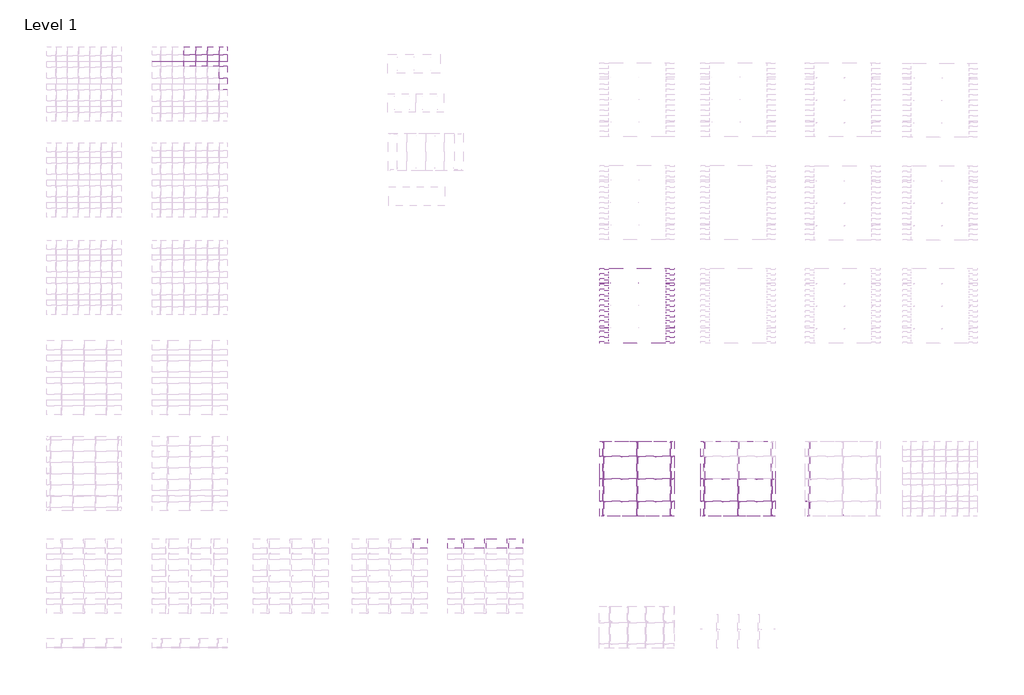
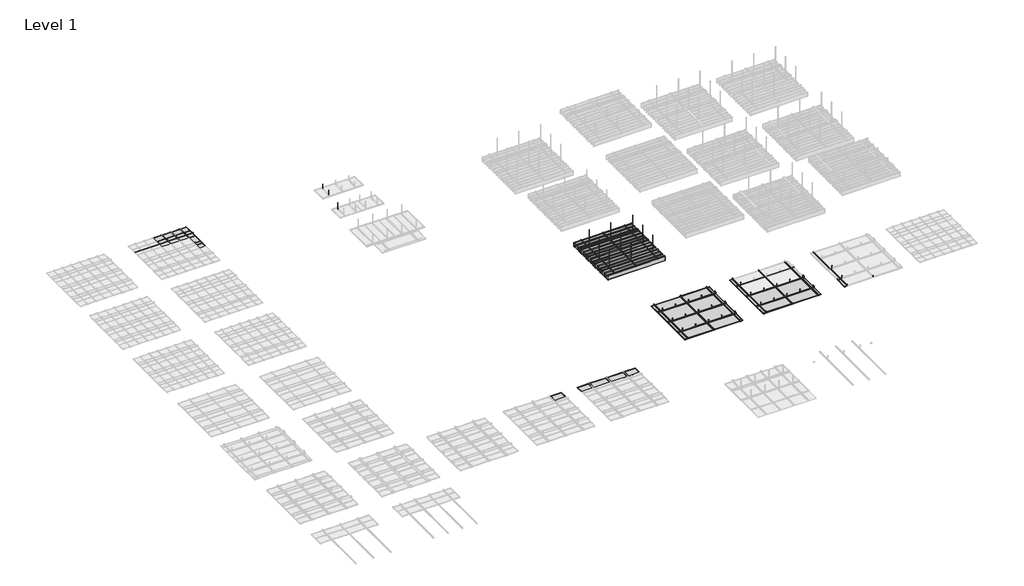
# One storey, part 24 of 32: 137 proxies.
"""IFC4 building model written with IfcOpenShell, lengths in millimetres."""

from ifc_helpers import new_model, si_unit, origin, place, context, project, spatial, transform, mapped, element, save
from components import generic_models_ab528957, generic_models_1702ebeb, generic_models_b2b1e57a, generic_models_3838b954, generic_models_1e71879b, generic_models_84546a59, generic_models_da7def32, generic_models_ee162b96, generic_models_e66d4f3b, generic_models_2999ce62, generic_models_18f5319a, generic_models_fc41ec27, generic_models_9dfc34b4, generic_models_9e18e937, generic_models_28f6a95c, generic_models_9ccf16c1, generic_models_38625c8c, generic_models_2f172364, generic_models_72923a4e, generic_models_39815823, generic_models_aa8f36d8, generic_models_26324e2b, generic_models_eb6e0cd6, generic_models_743fb40c

model = new_model("IFC4")

# Units and contexts
model_context = context("Model", 3, world=origin())
ifc_project = project(units=[si_unit("LENGTHUNIT", "METRE", prefix="MILLI")], contexts=[model_context])

# Site, building, storey
site = spatial("IfcSite", under=ifc_project)
building = spatial("IfcBuilding", under=site)
storey = spatial("IfcBuildingStorey", under=building, Name="Level 1", Elevation=0.0)

# Proxies
placement = place(None, origin())
generic_models_shape = generic_models_ab528957(model_context)
element("IfcBuildingElementProxy", 1, Name="durlum_S7_panel : durlum_S7_panel", ObjectType="durlum_S7_panel : durlum_S7_panel", at=placement, inside=storey, context=model_context, shape_type="MappedRepresentation", body=[
    mapped(generic_models_shape, transform((11272.6837261, 3146.446135, 3750.0), x_axis=(1.0, 0.0, 0.0), y_axis=(0.0, 1.0, 0.0), z_axis=(0.0, 0.0, 1.0))),
])
element("IfcBuildingElementProxy", 2, Name="durlum_S7_panel : durlum_S7_panel", ObjectType="durlum_S7_panel : durlum_S7_panel", at=placement, inside=storey, context=model_context, shape_type="MappedRepresentation", body=[
    mapped(generic_models_shape, transform((13076.6837261, 3146.446135, 3750.0), x_axis=(1.0, 0.0, 0.0), y_axis=(0.0, 1.0, 0.0), z_axis=(0.0, 0.0, 1.0))),
])
element("IfcBuildingElementProxy", 3, Name="durlum_S7_panel : durlum_S7_panel", ObjectType="durlum_S7_panel : durlum_S7_panel", at=placement, inside=storey, context=model_context, shape_type="MappedRepresentation", body=[
    mapped(generic_models_shape, transform((11272.6837261, 4350.446135, 3750.0), x_axis=(1.0, 0.0, 0.0), y_axis=(0.0, 1.0, 0.0), z_axis=(0.0, 0.0, 1.0))),
])
element("IfcBuildingElementProxy", 4, Name="durlum_S7_panel : durlum_S7_panel", ObjectType="durlum_S7_panel : durlum_S7_panel", at=placement, inside=storey, context=model_context, shape_type="MappedRepresentation", body=[
    mapped(generic_models_shape, transform((13076.6837261, 4350.446135, 3750.0), x_axis=(1.0, 0.0, 0.0), y_axis=(0.0, 1.0, 0.0), z_axis=(0.0, 0.0, 1.0))),
])
element("IfcBuildingElementProxy", 5, Name="durlum_S7_panel : durlum_S7_panel", ObjectType="durlum_S7_panel : durlum_S7_panel", at=placement, inside=storey, context=model_context, shape_type="MappedRepresentation", body=[
    mapped(generic_models_shape, transform((16672.6837261, 3146.446135, 3750.0), x_axis=(1.0, 0.0, 0.0), y_axis=(0.0, 1.0, 0.0), z_axis=(0.0, 0.0, 1.0))),
])
element("IfcBuildingElementProxy", 6, Name="durlum_S7_panel : durlum_S7_panel", ObjectType="durlum_S7_panel : durlum_S7_panel", at=placement, inside=storey, context=model_context, shape_type="MappedRepresentation", body=[
    mapped(generic_models_shape, transform((18476.6837261, 3146.446135, 3750.0), x_axis=(1.0, 0.0, 0.0), y_axis=(0.0, 1.0, 0.0), z_axis=(0.0, 0.0, 1.0))),
])
generic_models_2_shape = generic_models_1702ebeb(model_context)
element("IfcBuildingElementProxy", 7, Name="durlum_S7_panel : durlum_S7_panel_wall_width_cut", ObjectType="durlum_S7_panel : durlum_S7_panel_wall_width_cut", at=placement, inside=storey, context=model_context, shape_type="MappedRepresentation", body=[
    mapped(generic_models_2_shape, transform((13076.6837261, 2146.446135, 3750.0), x_axis=(1.0, 0.0, 0.0), y_axis=(0.0, 1.0, 0.0), z_axis=(0.0, 0.0, 1.0))),
])
element("IfcBuildingElementProxy", 8, Name="durlum_S7_panel : durlum_S7_panel_wall_width_cut", ObjectType="durlum_S7_panel : durlum_S7_panel_wall_width_cut", at=placement, inside=storey, context=model_context, shape_type="MappedRepresentation", body=[
    mapped(generic_models_2_shape, transform((13076.6837261, 5350.446135, 3750.0), x_axis=(1.0, 0.0, 0.0), y_axis=(0.0, 1.0, 0.0), z_axis=(0.0, 0.0, 1.0))),
])
element("IfcBuildingElementProxy", 9, Name="durlum_S7_panel : durlum_S7_panel_wall_width_cut", ObjectType="durlum_S7_panel : durlum_S7_panel_wall_width_cut", at=placement, inside=storey, context=model_context, shape_type="MappedRepresentation", body=[
    mapped(generic_models_2_shape, transform((11272.6837261, 2146.446135, 3750.0), x_axis=(1.0, 0.0, 0.0), y_axis=(0.0, 1.0, 0.0), z_axis=(0.0, 0.0, 1.0))),
])
element("IfcBuildingElementProxy", 10, Name="durlum_S7_panel : durlum_S7_panel_wall_width_cut", ObjectType="durlum_S7_panel : durlum_S7_panel_wall_width_cut", at=placement, inside=storey, context=model_context, shape_type="MappedRepresentation", body=[
    mapped(generic_models_2_shape, transform((11272.6837261, 5350.446135, 3750.0), x_axis=(1.0, 0.0, 0.0), y_axis=(0.0, 1.0, 0.0), z_axis=(0.0, 0.0, 1.0))),
])
element("IfcBuildingElementProxy", 11, Name="durlum_S7_panel : durlum_S7_panel_wall_width_cut", ObjectType="durlum_S7_panel : durlum_S7_panel_wall_width_cut", at=placement, inside=storey, context=model_context, shape_type="MappedRepresentation", body=[
    mapped(generic_models_2_shape, transform((18476.6837261, 2146.446135, 3750.0), x_axis=(1.0, 0.0, 0.0), y_axis=(0.0, 1.0, 0.0), z_axis=(0.0, 0.0, 1.0))),
])
element("IfcBuildingElementProxy", 12, Name="durlum_S7_panel : durlum_S7_panel_wall_width_cut", ObjectType="durlum_S7_panel : durlum_S7_panel_wall_width_cut", at=placement, inside=storey, context=model_context, shape_type="MappedRepresentation", body=[
    mapped(generic_models_2_shape, transform((16672.6837261, 2146.446135, 3750.0), x_axis=(1.0, 0.0, 0.0), y_axis=(0.0, 1.0, 0.0), z_axis=(0.0, 0.0, 1.0))),
])
generic_models_3_shape = generic_models_b2b1e57a(model_context)
element("IfcBuildingElementProxy", 13, Name="durlum_S7_panel : durlum_S7_panel_wall_length_cut", ObjectType="durlum_S7_panel : durlum_S7_panel_wall_length_cut", at=placement, inside=storey, context=model_context, shape_type="MappedRepresentation", body=[
    mapped(generic_models_3_shape, transform((10272.6837261, 3146.446135, 3750.0), x_axis=(1.0, 0.0, 0.0), y_axis=(0.0, 1.0, 0.0), z_axis=(0.0, 0.0, 1.0))),
])
element("IfcBuildingElementProxy", 14, Name="durlum_S7_panel : durlum_S7_panel_wall_length_cut", ObjectType="durlum_S7_panel : durlum_S7_panel_wall_length_cut", at=placement, inside=storey, context=model_context, shape_type="MappedRepresentation", body=[
    mapped(generic_models_3_shape, transform((14076.6837261, 3146.446135, 3750.0), x_axis=(1.0, 0.0, 0.0), y_axis=(0.0, 1.0, 0.0), z_axis=(0.0, 0.0, 1.0))),
])
element("IfcBuildingElementProxy", 15, Name="durlum_S7_panel : durlum_S7_panel_wall_length_cut", ObjectType="durlum_S7_panel : durlum_S7_panel_wall_length_cut", at=placement, inside=storey, context=model_context, shape_type="MappedRepresentation", body=[
    mapped(generic_models_3_shape, transform((14076.6837261, 4350.446135, 3750.0), x_axis=(1.0, 0.0, 0.0), y_axis=(0.0, 1.0, 0.0), z_axis=(0.0, 0.0, 1.0))),
])
element("IfcBuildingElementProxy", 16, Name="durlum_S7_panel : durlum_S7_panel_wall_length_cut", ObjectType="durlum_S7_panel : durlum_S7_panel_wall_length_cut", at=placement, inside=storey, context=model_context, shape_type="MappedRepresentation", body=[
    mapped(generic_models_3_shape, transform((10272.6837261, 4350.446135, 3750.0), x_axis=(1.0, 0.0, 0.0), y_axis=(0.0, 1.0, 0.0), z_axis=(0.0, 0.0, 1.0))),
])
element("IfcBuildingElementProxy", 17, Name="durlum_S7_panel : durlum_S7_panel_wall_length_cut", ObjectType="durlum_S7_panel : durlum_S7_panel_wall_length_cut", at=placement, inside=storey, context=model_context, shape_type="MappedRepresentation", body=[
    mapped(generic_models_3_shape, transform((15672.6837261, 3146.446135, 3750.0), x_axis=(1.0, 0.0, 0.0), y_axis=(0.0, 1.0, 0.0), z_axis=(0.0, 0.0, 1.0))),
])
element("IfcBuildingElementProxy", 18, Name="durlum_S7_panel : durlum_S7_panel_wall_length_cut", ObjectType="durlum_S7_panel : durlum_S7_panel_wall_length_cut", at=placement, inside=storey, context=model_context, shape_type="MappedRepresentation", body=[
    mapped(generic_models_3_shape, transform((19476.6837261, 3146.446135, 3750.0), x_axis=(1.0, 0.0, 0.0), y_axis=(0.0, 1.0, 0.0), z_axis=(0.0, 0.0, 1.0))),
])
element("IfcBuildingElementProxy", 19, Name="durlum_S7_panel : durlum_S7_panel_wall_length_cut", ObjectType="durlum_S7_panel : durlum_S7_panel_wall_length_cut", at=placement, inside=storey, context=model_context, shape_type="MappedRepresentation", body=[
    mapped(generic_models_3_shape, transform((15672.6837261, 4350.446135, 3750.0), x_axis=(1.0, 0.0, 0.0), y_axis=(0.0, 1.0, 0.0), z_axis=(0.0, 0.0, 1.0))),
])
generic_models_4_shape = generic_models_3838b954(model_context)
element("IfcBuildingElementProxy", 20, Name="durlum_S7_panel : durlum_S7_panel_wall_corner", ObjectType="durlum_S7_panel : durlum_S7_panel_wall_corner", at=placement, inside=storey, context=model_context, shape_type="MappedRepresentation", body=[
    mapped(generic_models_4_shape, transform((10272.6837261, 2146.446135, 3750.0), x_axis=(1.0, 0.0, 0.0), y_axis=(0.0, 1.0, 0.0), z_axis=(0.0, 0.0, 1.0))),
])
element("IfcBuildingElementProxy", 21, Name="durlum_S7_panel : durlum_S7_panel_wall_corner", ObjectType="durlum_S7_panel : durlum_S7_panel_wall_corner", at=placement, inside=storey, context=model_context, shape_type="MappedRepresentation", body=[
    mapped(generic_models_4_shape, transform((14076.6837261, 2146.446135, 3750.0), x_axis=(1.0, 0.0, 0.0), y_axis=(0.0, 1.0, 0.0), z_axis=(0.0, 0.0, 1.0))),
])
element("IfcBuildingElementProxy", 22, Name="durlum_S7_panel : durlum_S7_panel_wall_corner", ObjectType="durlum_S7_panel : durlum_S7_panel_wall_corner", at=placement, inside=storey, context=model_context, shape_type="MappedRepresentation", body=[
    mapped(generic_models_4_shape, transform((14076.6837261, 5350.446135, 3750.0), x_axis=(1.0, 0.0, 0.0), y_axis=(0.0, 1.0, 0.0), z_axis=(0.0, 0.0, 1.0))),
])
element("IfcBuildingElementProxy", 23, Name="durlum_S7_panel : durlum_S7_panel_wall_corner", ObjectType="durlum_S7_panel : durlum_S7_panel_wall_corner", at=placement, inside=storey, context=model_context, shape_type="MappedRepresentation", body=[
    mapped(generic_models_4_shape, transform((10272.6837261, 5350.446135, 3750.0), x_axis=(1.0, 0.0, 0.0), y_axis=(0.0, 1.0, 0.0), z_axis=(0.0, 0.0, 1.0))),
])
element("IfcBuildingElementProxy", 24, Name="durlum_S7_panel : durlum_S7_panel_wall_corner", ObjectType="durlum_S7_panel : durlum_S7_panel_wall_corner", at=placement, inside=storey, context=model_context, shape_type="MappedRepresentation", body=[
    mapped(generic_models_4_shape, transform((15672.6837261, 2146.446135, 3750.0), x_axis=(1.0, 0.0, 0.0), y_axis=(0.0, 1.0, 0.0), z_axis=(0.0, 0.0, 1.0))),
])
element("IfcBuildingElementProxy", 25, Name="durlum_S7_panel : durlum_S7_panel_wall_corner", ObjectType="durlum_S7_panel : durlum_S7_panel_wall_corner", at=placement, inside=storey, context=model_context, shape_type="MappedRepresentation", body=[
    mapped(generic_models_4_shape, transform((19476.6837261, 2146.446135, 3750.0), x_axis=(1.0, 0.0, 0.0), y_axis=(0.0, 1.0, 0.0), z_axis=(0.0, 0.0, 1.0))),
])
element("IfcBuildingElementProxy", 26, Name="durlum_S7_panel : durlum_S7_panel_wall_corner", ObjectType="durlum_S7_panel : durlum_S7_panel_wall_corner", at=placement, inside=storey, context=model_context, shape_type="MappedRepresentation", body=[
    mapped(generic_models_4_shape, transform((15672.6837261, 5350.446135, 3750.0), x_axis=(1.0, 0.0, 0.0), y_axis=(0.0, 1.0, 0.0), z_axis=(0.0, 0.0, 1.0))),
])
element("IfcBuildingElementProxy", 27, Name="durlum_S7_panel : durlum_S7_panel_wall_corner", ObjectType="durlum_S7_panel : durlum_S7_panel_wall_corner", at=placement, inside=storey, context=model_context, shape_type="MappedRepresentation", body=[
    mapped(generic_models_4_shape, transform((21270.1507827, 2146.446135, 3750.0), x_axis=(1.0, 0.0, 0.0), y_axis=(0.0, 1.0, 0.0), z_axis=(0.0, 0.0, 1.0))),
])
generic_models_5_shape = generic_models_1e71879b(model_context)
element("IfcBuildingElementProxy", 28, Name="durlum_FLUID-C : durlum_FLUID-C_1204x1204", ObjectType="durlum_FLUID-C : durlum_FLUID-C_1204x1204", at=placement, inside=storey, context=model_context, shape_type="MappedRepresentation", body=[
    mapped(generic_models_5_shape, transform((12174.6837261, 3748.446135, 0.0), x_axis=(1.0, 0.0, 0.0), y_axis=(0.0, 1.0, 0.0), z_axis=(0.0, 0.0, 1.0))),
])
element("IfcBuildingElementProxy", 29, Name="durlum_FLUID-C : durlum_FLUID-C_904x904", ObjectType="durlum_FLUID-C : durlum_FLUID-C_904x904", at=placement, inside=storey, context=model_context, shape_type="MappedRepresentation", body=[
    mapped(generic_models_5_shape, transform((17574.6837261, 3748.446135, 0.0), x_axis=(1.0, 0.0, 0.0), y_axis=(0.0, 1.0, 0.0), z_axis=(0.0, 0.0, 1.0))),
])
generic_models_6_shape = generic_models_84546a59(model_context)
element("IfcBuildingElementProxy", 30, Name="durlum_threaded_rod_M6 : durlum_threaded_rod_M6", ObjectType="durlum_threaded_rod_M6 : durlum_threaded_rod_M6", at=placement, inside=storey, context=model_context, shape_type="MappedRepresentation", body=[
    mapped(generic_models_6_shape, transform((-10267.5747393, 26058.7392516, 3835.0), x_axis=(1.0, 0.0, 0.0), y_axis=(0.0, 1.0, 0.0), z_axis=(0.0, 0.0, 1.0))),
])
element("IfcBuildingElementProxy", 31, Name="durlum_threaded_rod_M6 : durlum_threaded_rod_M6", ObjectType="durlum_threaded_rod_M6 : durlum_threaded_rod_M6", at=placement, inside=storey, context=model_context, shape_type="MappedRepresentation", body=[
    mapped(generic_models_6_shape, transform((-10892.5747393, 26058.7392516, 3835.0), x_axis=(1.0, 0.0, 0.0), y_axis=(0.0, 1.0, 0.0), z_axis=(0.0, 0.0, 1.0))),
])
element("IfcBuildingElementProxy", 32, Name="durlum_threaded_rod_M6 : durlum_threaded_rod_M6", ObjectType="durlum_threaded_rod_M6 : durlum_threaded_rod_M6", at=placement, inside=storey, context=model_context, shape_type="MappedRepresentation", body=[
    mapped(generic_models_6_shape, transform((-11517.5747393, 26058.7392516, 3835.0), x_axis=(1.0, 0.0, 0.0), y_axis=(0.0, 1.0, 0.0), z_axis=(0.0, 0.0, 1.0))),
])
generic_models_7_shape = generic_models_da7def32(model_context)
element("IfcBuildingElementProxy", 33, Name="durlum_U1300 : durlum_U1300", ObjectType="durlum_U1300 : durlum_U1300", at=placement, inside=storey, context=model_context, shape_type="MappedRepresentation", body=[
    mapped(generic_models_7_shape, transform((10470.6837261, 4948.446135, 3081.4124682), x_axis=(1.0, 0.0, 0.0), y_axis=(0.0, 1.0, 0.0), z_axis=(0.0, 0.0, 1.0))),
])
element("IfcBuildingElementProxy", 34, Name="durlum_U1300 : durlum_U1300", ObjectType="durlum_U1300 : durlum_U1300", at=placement, inside=storey, context=model_context, shape_type="MappedRepresentation", body=[
    mapped(generic_models_7_shape, transform((14078.6837261, 4948.446135, 3081.4124682), x_axis=(1.0, 0.0, 0.0), y_axis=(0.0, 1.0, 0.0), z_axis=(0.0, 0.0, 1.0))),
])
element("IfcBuildingElementProxy", 35, Name="durlum_U1300 : durlum_U1300", ObjectType="durlum_U1300 : durlum_U1300", at=placement, inside=storey, context=model_context, shape_type="MappedRepresentation", body=[
    mapped(generic_models_7_shape, transform((11372.6837261, 4948.446135, 3081.4124682), x_axis=(1.0, 0.0, 0.0), y_axis=(0.0, 1.0, 0.0), z_axis=(0.0, 0.0, 1.0))),
])
element("IfcBuildingElementProxy", 36, Name="durlum_U1300 : durlum_U1300", ObjectType="durlum_U1300 : durlum_U1300", at=placement, inside=storey, context=model_context, shape_type="MappedRepresentation", body=[
    mapped(generic_models_7_shape, transform((12274.6837261, 4948.446135, 3081.4124682), x_axis=(1.0, 0.0, 0.0), y_axis=(0.0, 1.0, 0.0), z_axis=(0.0, 0.0, 1.0))),
])
element("IfcBuildingElementProxy", 37, Name="durlum_U1300 : durlum_U1300", ObjectType="durlum_U1300 : durlum_U1300", at=placement, inside=storey, context=model_context, shape_type="MappedRepresentation", body=[
    mapped(generic_models_7_shape, transform((13176.6837261, 4948.446135, 3081.4124682), x_axis=(1.0, 0.0, 0.0), y_axis=(0.0, 1.0, 0.0), z_axis=(0.0, 0.0, 1.0))),
])
element("IfcBuildingElementProxy", 38, Name="durlum_U1300 : durlum_U1300", ObjectType="durlum_U1300 : durlum_U1300", at=placement, inside=storey, context=model_context, shape_type="MappedRepresentation", body=[
    mapped(generic_models_7_shape, transform((10470.6837261, 2548.446135, 3081.4124682), x_axis=(1.0, 0.0, 0.0), y_axis=(0.0, 1.0, 0.0), z_axis=(0.0, 0.0, 1.0))),
])
element("IfcBuildingElementProxy", 39, Name="durlum_U1300 : durlum_U1300", ObjectType="durlum_U1300 : durlum_U1300", at=placement, inside=storey, context=model_context, shape_type="MappedRepresentation", body=[
    mapped(generic_models_7_shape, transform((14078.6837261, 2548.446135, 3081.4124682), x_axis=(1.0, 0.0, 0.0), y_axis=(0.0, 1.0, 0.0), z_axis=(0.0, 0.0, 1.0))),
])
element("IfcBuildingElementProxy", 40, Name="durlum_U1300 : durlum_U1300", ObjectType="durlum_U1300 : durlum_U1300", at=placement, inside=storey, context=model_context, shape_type="MappedRepresentation", body=[
    mapped(generic_models_7_shape, transform((11372.6837261, 2548.446135, 3081.4124682), x_axis=(1.0, 0.0, 0.0), y_axis=(0.0, 1.0, 0.0), z_axis=(0.0, 0.0, 1.0))),
])
element("IfcBuildingElementProxy", 41, Name="durlum_U1300 : durlum_U1300", ObjectType="durlum_U1300 : durlum_U1300", at=placement, inside=storey, context=model_context, shape_type="MappedRepresentation", body=[
    mapped(generic_models_7_shape, transform((12274.6837261, 2548.446135, 3081.4124682), x_axis=(1.0, 0.0, 0.0), y_axis=(0.0, 1.0, 0.0), z_axis=(0.0, 0.0, 1.0))),
])
element("IfcBuildingElementProxy", 42, Name="durlum_U1300 : durlum_U1300", ObjectType="durlum_U1300 : durlum_U1300", at=placement, inside=storey, context=model_context, shape_type="MappedRepresentation", body=[
    mapped(generic_models_7_shape, transform((13176.6837261, 2548.446135, 3081.4124682), x_axis=(1.0, 0.0, 0.0), y_axis=(0.0, 1.0, 0.0), z_axis=(0.0, 0.0, 1.0))),
])
element("IfcBuildingElementProxy", 43, Name="durlum_U1300 : durlum_U1300", ObjectType="durlum_U1300 : durlum_U1300", at=placement, inside=storey, context=model_context, shape_type="MappedRepresentation", body=[
    mapped(generic_models_7_shape, transform((10470.6837261, 3748.446135, 3081.4124682), x_axis=(1.0, 0.0, 0.0), y_axis=(0.0, 1.0, 0.0), z_axis=(0.0, 0.0, 1.0))),
])
element("IfcBuildingElementProxy", 44, Name="durlum_U1300 : durlum_U1300", ObjectType="durlum_U1300 : durlum_U1300", at=placement, inside=storey, context=model_context, shape_type="MappedRepresentation", body=[
    mapped(generic_models_7_shape, transform((14078.6837261, 3748.446135, 3081.4124682), x_axis=(1.0, 0.0, 0.0), y_axis=(0.0, 1.0, 0.0), z_axis=(0.0, 0.0, 1.0))),
])
element("IfcBuildingElementProxy", 45, Name="durlum_U1300 : durlum_U1300", ObjectType="durlum_U1300 : durlum_U1300", at=placement, inside=storey, context=model_context, shape_type="MappedRepresentation", body=[
    mapped(generic_models_7_shape, transform((11372.6837261, 3748.446135, 3081.4124682), x_axis=(1.0, 0.0, 0.0), y_axis=(0.0, 1.0, 0.0), z_axis=(0.0, 0.0, 1.0))),
])
element("IfcBuildingElementProxy", 46, Name="durlum_U1300 : durlum_U1300", ObjectType="durlum_U1300 : durlum_U1300", at=placement, inside=storey, context=model_context, shape_type="MappedRepresentation", body=[
    mapped(generic_models_7_shape, transform((12274.6837261, 3748.446135, 3081.4124682), x_axis=(1.0, 0.0, 0.0), y_axis=(0.0, 1.0, 0.0), z_axis=(0.0, 0.0, 1.0))),
])
element("IfcBuildingElementProxy", 47, Name="durlum_U1300 : durlum_U1300", ObjectType="durlum_U1300 : durlum_U1300", at=placement, inside=storey, context=model_context, shape_type="MappedRepresentation", body=[
    mapped(generic_models_7_shape, transform((13176.6837261, 3748.446135, 3081.4124682), x_axis=(1.0, 0.0, 0.0), y_axis=(0.0, 1.0, 0.0), z_axis=(0.0, 0.0, 1.0))),
])
element("IfcBuildingElementProxy", 48, Name="durlum_U1300 : durlum_U1300", ObjectType="durlum_U1300 : durlum_U1300", at=placement, inside=storey, context=model_context, shape_type="MappedRepresentation", body=[
    mapped(generic_models_7_shape, transform((15870.6837261, 4948.446135, 3081.4124682), x_axis=(1.0, 0.0, 0.0), y_axis=(0.0, 1.0, 0.0), z_axis=(0.0, 0.0, 1.0))),
])
element("IfcBuildingElementProxy", 49, Name="durlum_U1300 : durlum_U1300", ObjectType="durlum_U1300 : durlum_U1300", at=placement, inside=storey, context=model_context, shape_type="MappedRepresentation", body=[
    mapped(generic_models_7_shape, transform((15870.6837261, 2548.446135, 3081.4124682), x_axis=(1.0, 0.0, 0.0), y_axis=(0.0, 1.0, 0.0), z_axis=(0.0, 0.0, 1.0))),
])
element("IfcBuildingElementProxy", 50, Name="durlum_U1300 : durlum_U1300", ObjectType="durlum_U1300 : durlum_U1300", at=placement, inside=storey, context=model_context, shape_type="MappedRepresentation", body=[
    mapped(generic_models_7_shape, transform((19478.6837261, 2548.446135, 3081.4124682), x_axis=(1.0, 0.0, 0.0), y_axis=(0.0, 1.0, 0.0), z_axis=(0.0, 0.0, 1.0))),
])
element("IfcBuildingElementProxy", 51, Name="durlum_U1300 : durlum_U1300", ObjectType="durlum_U1300 : durlum_U1300", at=placement, inside=storey, context=model_context, shape_type="MappedRepresentation", body=[
    mapped(generic_models_7_shape, transform((16772.6837261, 2548.446135, 3081.4124682), x_axis=(1.0, 0.0, 0.0), y_axis=(0.0, 1.0, 0.0), z_axis=(0.0, 0.0, 1.0))),
])
element("IfcBuildingElementProxy", 52, Name="durlum_U1300 : durlum_U1300", ObjectType="durlum_U1300 : durlum_U1300", at=placement, inside=storey, context=model_context, shape_type="MappedRepresentation", body=[
    mapped(generic_models_7_shape, transform((17674.6837261, 2548.446135, 3081.4124682), x_axis=(1.0, 0.0, 0.0), y_axis=(0.0, 1.0, 0.0), z_axis=(0.0, 0.0, 1.0))),
])
element("IfcBuildingElementProxy", 53, Name="durlum_U1300 : durlum_U1300", ObjectType="durlum_U1300 : durlum_U1300", at=placement, inside=storey, context=model_context, shape_type="MappedRepresentation", body=[
    mapped(generic_models_7_shape, transform((18576.6837261, 2548.446135, 3081.4124682), x_axis=(1.0, 0.0, 0.0), y_axis=(0.0, 1.0, 0.0), z_axis=(0.0, 0.0, 1.0))),
])
element("IfcBuildingElementProxy", 54, Name="durlum_U1300 : durlum_U1300", ObjectType="durlum_U1300 : durlum_U1300", at=placement, inside=storey, context=model_context, shape_type="MappedRepresentation", body=[
    mapped(generic_models_7_shape, transform((15870.6837261, 3748.446135, 3081.4124682), x_axis=(1.0, 0.0, 0.0), y_axis=(0.0, 1.0, 0.0), z_axis=(0.0, 0.0, 1.0))),
])
element("IfcBuildingElementProxy", 55, Name="durlum_U1300 : durlum_U1300", ObjectType="durlum_U1300 : durlum_U1300", at=placement, inside=storey, context=model_context, shape_type="MappedRepresentation", body=[
    mapped(generic_models_7_shape, transform((19478.6837261, 3748.446135, 3081.4124682), x_axis=(1.0, 0.0, 0.0), y_axis=(0.0, 1.0, 0.0), z_axis=(0.0, 0.0, 1.0))),
])
element("IfcBuildingElementProxy", 56, Name="durlum_U1300 : durlum_U1300", ObjectType="durlum_U1300 : durlum_U1300", at=placement, inside=storey, context=model_context, shape_type="MappedRepresentation", body=[
    mapped(generic_models_7_shape, transform((16772.6837261, 3748.446135, 3081.4124682), x_axis=(1.0, 0.0, 0.0), y_axis=(0.0, 1.0, 0.0), z_axis=(0.0, 0.0, 1.0))),
])
element("IfcBuildingElementProxy", 57, Name="durlum_U1300 : durlum_U1300", ObjectType="durlum_U1300 : durlum_U1300", at=placement, inside=storey, context=model_context, shape_type="MappedRepresentation", body=[
    mapped(generic_models_7_shape, transform((17674.6837261, 3748.446135, 3081.4124682), x_axis=(1.0, 0.0, 0.0), y_axis=(0.0, 1.0, 0.0), z_axis=(0.0, 0.0, 1.0))),
])
element("IfcBuildingElementProxy", 58, Name="durlum_U1300 : durlum_U1300", ObjectType="durlum_U1300 : durlum_U1300", at=placement, inside=storey, context=model_context, shape_type="MappedRepresentation", body=[
    mapped(generic_models_7_shape, transform((18576.6837261, 3748.446135, 3081.4124682), x_axis=(1.0, 0.0, 0.0), y_axis=(0.0, 1.0, 0.0), z_axis=(0.0, 0.0, 1.0))),
])
element("IfcBuildingElementProxy", 59, Name="durlum_U1300 : durlum_U1300", ObjectType="durlum_U1300 : durlum_U1300", at=placement, inside=storey, context=model_context, shape_type="MappedRepresentation", body=[
    mapped(generic_models_7_shape, transform((21468.1507827, 2548.446135, 3081.4124682), x_axis=(1.0, 0.0, 0.0), y_axis=(0.0, 1.0, 0.0), z_axis=(0.0, 0.0, 1.0))),
])
element("IfcBuildingElementProxy", 60, Name="durlum_U1300 : durlum_U1300", ObjectType="durlum_U1300 : durlum_U1300", at=placement, inside=storey, context=model_context, shape_type="MappedRepresentation", body=[
    mapped(generic_models_7_shape, transform((21468.1507827, 3748.446135, 3081.4124682), x_axis=(1.0, 0.0, 0.0), y_axis=(0.0, 1.0, 0.0), z_axis=(0.0, 0.0, 1.0))),
])
generic_models_8_shape = generic_models_ee162b96(model_context)
element("IfcBuildingElementProxy", 61, Name="durlum_threaded_rod_M6 : durlum_threaded_rod_M6", ObjectType="durlum_threaded_rod_M6 : durlum_threaded_rod_M6", at=placement, inside=storey, context=model_context, shape_type="MappedRepresentation", body=[
    mapped(generic_models_8_shape, transform((-648.2087992, 25594.3505073, 3672.1013669), x_axis=(0.0, -1.0, 0.0), y_axis=(1.0, 0.0, 0.0), z_axis=(0.0, 0.0, 1.0))),
])
element("IfcBuildingElementProxy", 62, Name="durlum_threaded_rod_M6 : durlum_threaded_rod_M6", ObjectType="durlum_threaded_rod_M6 : durlum_threaded_rod_M6", at=placement, inside=storey, context=model_context, shape_type="MappedRepresentation", body=[
    mapped(generic_models_8_shape, transform((-648.2087992, 26294.3505073, 3672.1013669), x_axis=(0.0, -1.0, 0.0), y_axis=(1.0, 0.0, 0.0), z_axis=(0.0, 0.0, 1.0))),
])
generic_models_9_shape = generic_models_e66d4f3b(model_context)
element("IfcBuildingElementProxy", 63, Name="durlum_threaded_rod_M6 : durlum_threaded_rod_M6", ObjectType="durlum_threaded_rod_M6 : durlum_threaded_rod_M6", at=placement, inside=storey, context=model_context, shape_type="MappedRepresentation", body=[
    mapped(generic_models_9_shape, transform((-809.9829279, 24195.3772869, 3528.2982312), x_axis=(0.0, -1.0, 0.0), y_axis=(1.0, 0.0, 0.0), z_axis=(0.0, 0.0, 1.0))),
])
generic_models_10_shape = generic_models_2999ce62(model_context)
element("IfcBuildingElementProxy", 64, Name="durlum_threaded_rod_M6 : durlum_threaded_rod_M6", ObjectType="durlum_threaded_rod_M6 : durlum_threaded_rod_M6", at=placement, inside=storey, context=model_context, shape_type="MappedRepresentation", body=[
    mapped(generic_models_10_shape, transform((10774.6837261, 11823.7838367, 2838.8079037), x_axis=(-1.0, 0.0, 0.0), y_axis=(0.0, -1.0, 0.0), z_axis=(0.0, 0.0, 1.0))),
])
element("IfcBuildingElementProxy", 65, Name="durlum_threaded_rod_M6 : durlum_threaded_rod_M6", ObjectType="durlum_threaded_rod_M6 : durlum_threaded_rod_M6", at=placement, inside=storey, context=model_context, shape_type="MappedRepresentation", body=[
    mapped(generic_models_10_shape, transform((13774.6837261, 11823.7838367, 2838.8079037), x_axis=(-1.0, 0.0, 0.0), y_axis=(0.0, -1.0, 0.0), z_axis=(0.0, 0.0, 1.0))),
])
element("IfcBuildingElementProxy", 66, Name="durlum_threaded_rod_M6 : durlum_threaded_rod_M6", ObjectType="durlum_threaded_rod_M6 : durlum_threaded_rod_M6", at=placement, inside=storey, context=model_context, shape_type="MappedRepresentation", body=[
    mapped(generic_models_10_shape, transform((12274.6837261, 11823.7838367, 2838.8079037), x_axis=(-1.0, 0.0, 0.0), y_axis=(0.0, -1.0, 0.0), z_axis=(0.0, 0.0, 1.0))),
])
element("IfcBuildingElementProxy", 67, Name="durlum_threaded_rod_M6 : durlum_threaded_rod_M6", ObjectType="durlum_threaded_rod_M6 : durlum_threaded_rod_M6", at=placement, inside=storey, context=model_context, shape_type="MappedRepresentation", body=[
    mapped(generic_models_10_shape, transform((10774.6837261, 14223.7838367, 2838.8079037), x_axis=(-1.0, 0.0, 0.0), y_axis=(0.0, -1.0, 0.0), z_axis=(0.0, 0.0, 1.0))),
])
element("IfcBuildingElementProxy", 68, Name="durlum_threaded_rod_M6 : durlum_threaded_rod_M6", ObjectType="durlum_threaded_rod_M6 : durlum_threaded_rod_M6", at=placement, inside=storey, context=model_context, shape_type="MappedRepresentation", body=[
    mapped(generic_models_10_shape, transform((13774.6837261, 14223.7838367, 2838.8079037), x_axis=(-1.0, 0.0, 0.0), y_axis=(0.0, -1.0, 0.0), z_axis=(0.0, 0.0, 1.0))),
])
element("IfcBuildingElementProxy", 69, Name="durlum_threaded_rod_M6 : durlum_threaded_rod_M6", ObjectType="durlum_threaded_rod_M6 : durlum_threaded_rod_M6", at=placement, inside=storey, context=model_context, shape_type="MappedRepresentation", body=[
    mapped(generic_models_10_shape, transform((12274.6837261, 14223.7838367, 2838.8079037), x_axis=(-1.0, 0.0, 0.0), y_axis=(0.0, -1.0, 0.0), z_axis=(0.0, 0.0, 1.0))),
])
element("IfcBuildingElementProxy", 70, Name="durlum_threaded_rod_M6 : durlum_threaded_rod_M6", ObjectType="durlum_threaded_rod_M6 : durlum_threaded_rod_M6", at=placement, inside=storey, context=model_context, shape_type="MappedRepresentation", body=[
    mapped(generic_models_10_shape, transform((10774.6837261, 13023.7838367, 2838.8079037), x_axis=(-1.0, 0.0, 0.0), y_axis=(0.0, -1.0, 0.0), z_axis=(0.0, 0.0, 1.0))),
])
element("IfcBuildingElementProxy", 71, Name="durlum_threaded_rod_M6 : durlum_threaded_rod_M6", ObjectType="durlum_threaded_rod_M6 : durlum_threaded_rod_M6", at=placement, inside=storey, context=model_context, shape_type="MappedRepresentation", body=[
    mapped(generic_models_10_shape, transform((13774.6837261, 13023.7838367, 2838.8079037), x_axis=(-1.0, 0.0, 0.0), y_axis=(0.0, -1.0, 0.0), z_axis=(0.0, 0.0, 1.0))),
])
element("IfcBuildingElementProxy", 72, Name="durlum_threaded_rod_M6 : durlum_threaded_rod_M6", ObjectType="durlum_threaded_rod_M6 : durlum_threaded_rod_M6", at=placement, inside=storey, context=model_context, shape_type="MappedRepresentation", body=[
    mapped(generic_models_10_shape, transform((12274.6837261, 13023.7838367, 2838.8079037), x_axis=(-1.0, 0.0, 0.0), y_axis=(0.0, -1.0, 0.0), z_axis=(0.0, 0.0, 1.0))),
])
generic_models_11_shape = generic_models_18f5319a(model_context)
generic_models_12_shape = generic_models_fc41ec27(model_context)
generic_models_13_shape = generic_models_9dfc34b4(model_context)
element("IfcBuildingElementProxy", 73, Name="durlum_POLYLAM : durlum_POLYLAM 100 RV-L6", ObjectType="durlum_POLYLAM : durlum_POLYLAM 100 RV-L6", at=placement, inside=storey, context=model_context, shape_type="MappedRepresentation", body=[
    mapped(generic_models_11_shape, transform((12174.6837261, 13009.7838367, 786.8079037), x_axis=(1.0, 0.0, 0.0), y_axis=(0.0, 1.0, 0.0), z_axis=(0.0, 0.0, 1.0))),
    mapped(generic_models_12_shape, transform((12174.6837261, 13009.7838367, 786.8079037), x_axis=(1.0, 0.0, 0.0), y_axis=(0.0, 1.0, 0.0), z_axis=(0.0, 0.0, 1.0))),
    mapped(generic_models_13_shape, transform((12174.6837261, 13009.7838367, 786.8079037), x_axis=(1.0, 0.0, 0.0), y_axis=(0.0, 1.0, 0.0), z_axis=(0.0, 0.0, 1.0))),
])
generic_models_14_shape = generic_models_9e18e937(model_context)
element("IfcBuildingElementProxy", 74, Name="durlum_U1042 : durlum_U1042", ObjectType="durlum_U1042 : durlum_U1042", at=placement, inside=storey, context=model_context, shape_type="MappedRepresentation", body=[
    mapped(generic_models_14_shape, transform((12174.6837261, 5748.446135, 3813.0), x_axis=(1.0, 0.0, 0.0), y_axis=(0.0, 1.0, 0.0), z_axis=(0.0, 0.0, 1.0))),
])
element("IfcBuildingElementProxy", 75, Name="durlum_U1042 : durlum_U1042", ObjectType="durlum_U1042 : durlum_U1042", at=placement, inside=storey, context=model_context, shape_type="MappedRepresentation", body=[
    mapped(generic_models_14_shape, transform((12174.6837261, 1748.446135, 3813.0), x_axis=(-1.0, 0.0, 0.0), y_axis=(0.0, -1.0, 0.0), z_axis=(0.0, 0.0, 1.0))),
])
element("IfcBuildingElementProxy", 76, Name="durlum_U1042 : durlum_U1042", ObjectType="durlum_U1042 : durlum_U1042", at=placement, inside=storey, context=model_context, shape_type="MappedRepresentation", body=[
    mapped(generic_models_14_shape, transform((10370.6837261, 1748.446135, 3813.0), x_axis=(-1.0, 0.0, 0.0), y_axis=(0.0, -1.0, 0.0), z_axis=(0.0, 0.0, 1.0))),
])
element("IfcBuildingElementProxy", 77, Name="durlum_U1042 : durlum_U1042", ObjectType="durlum_U1042 : durlum_U1042", at=placement, inside=storey, context=model_context, shape_type="MappedRepresentation", body=[
    mapped(generic_models_14_shape, transform((10370.6837261, 5748.446135, 3813.0), x_axis=(1.0, 0.0, 0.0), y_axis=(0.0, 1.0, 0.0), z_axis=(0.0, 0.0, 1.0))),
])
element("IfcBuildingElementProxy", 78, Name="durlum_U1042 : durlum_U1042", ObjectType="durlum_U1042 : durlum_U1042", at=placement, inside=storey, context=model_context, shape_type="MappedRepresentation", body=[
    mapped(generic_models_14_shape, transform((13978.6837261, 5748.446135, 3813.0), x_axis=(1.0, 0.0, 0.0), y_axis=(0.0, 1.0, 0.0), z_axis=(0.0, 0.0, 1.0))),
])
element("IfcBuildingElementProxy", 79, Name="durlum_U1042 : durlum_U1042", ObjectType="durlum_U1042 : durlum_U1042", at=placement, inside=storey, context=model_context, shape_type="MappedRepresentation", body=[
    mapped(generic_models_14_shape, transform((13978.6837261, 1748.446135, 3813.0), x_axis=(-1.0, 0.0, 0.0), y_axis=(0.0, -1.0, 0.0), z_axis=(0.0, 0.0, 1.0))),
])
element("IfcBuildingElementProxy", 80, Name="durlum_U1042 : durlum_U1042", ObjectType="durlum_U1042 : durlum_U1042", at=placement, inside=storey, context=model_context, shape_type="MappedRepresentation", body=[
    mapped(generic_models_14_shape, transform((17574.6837261, 1748.446135, 3813.0), x_axis=(-1.0, 0.0, 0.0), y_axis=(0.0, -1.0, 0.0), z_axis=(0.0, 0.0, 1.0))),
])
element("IfcBuildingElementProxy", 81, Name="durlum_U1042 : durlum_U1042", ObjectType="durlum_U1042 : durlum_U1042", at=placement, inside=storey, context=model_context, shape_type="MappedRepresentation", body=[
    mapped(generic_models_14_shape, transform((15770.6837261, 1748.446135, 3813.0), x_axis=(-1.0, 0.0, 0.0), y_axis=(0.0, -1.0, 0.0), z_axis=(0.0, 0.0, 1.0))),
])
element("IfcBuildingElementProxy", 82, Name="durlum_U1042 : durlum_U1042", ObjectType="durlum_U1042 : durlum_U1042", at=placement, inside=storey, context=model_context, shape_type="MappedRepresentation", body=[
    mapped(generic_models_14_shape, transform((15770.6837261, 5748.446135, 3813.0), x_axis=(1.0, 0.0, 0.0), y_axis=(0.0, 1.0, 0.0), z_axis=(0.0, 0.0, 1.0))),
])
element("IfcBuildingElementProxy", 83, Name="durlum_U1042 : durlum_U1042", ObjectType="durlum_U1042 : durlum_U1042", at=placement, inside=storey, context=model_context, shape_type="MappedRepresentation", body=[
    mapped(generic_models_14_shape, transform((19378.6837261, 1748.446135, 3813.0), x_axis=(-1.0, 0.0, 0.0), y_axis=(0.0, -1.0, 0.0), z_axis=(0.0, 0.0, 1.0))),
])
element("IfcBuildingElementProxy", 84, Name="durlum_U1042 : durlum_U1042", ObjectType="durlum_U1042 : durlum_U1042", at=placement, inside=storey, context=model_context, shape_type="MappedRepresentation", body=[
    mapped(generic_models_14_shape, transform((23172.1507827, 1748.446135, 3813.0), x_axis=(-1.0, 0.0, 0.0), y_axis=(0.0, -1.0, 0.0), z_axis=(0.0, 0.0, 1.0))),
])
element("IfcBuildingElementProxy", 85, Name="durlum_U1042 : durlum_U1042", ObjectType="durlum_U1042 : durlum_U1042", at=placement, inside=storey, context=model_context, shape_type="MappedRepresentation", body=[
    mapped(generic_models_14_shape, transform((21368.1507827, 1748.446135, 3813.0), x_axis=(-1.0, 0.0, 0.0), y_axis=(0.0, -1.0, 0.0), z_axis=(0.0, 0.0, 1.0))),
])
generic_models_15_shape = generic_models_28f6a95c(model_context)
element("IfcBuildingElementProxy", 86, Name="durlum_U1042 : durlum_U1042", ObjectType="durlum_U1042 : durlum_U1042", at=placement, inside=storey, context=model_context, shape_type="MappedRepresentation", body=[
    mapped(generic_models_15_shape, transform((10174.6837261, 3762.446135, 3801.0), x_axis=(0.0, -1.0, 0.0), y_axis=(1.0, 0.0, 0.0), z_axis=(0.0, 0.0, 1.0))),
])
element("IfcBuildingElementProxy", 87, Name="durlum_U1042 : durlum_U1042", ObjectType="durlum_U1042 : durlum_U1042", at=placement, inside=storey, context=model_context, shape_type="MappedRepresentation", body=[
    mapped(generic_models_15_shape, transform((10174.6837261, 4962.446135, 3801.0), x_axis=(0.0, -1.0, 0.0), y_axis=(1.0, 0.0, 0.0), z_axis=(0.0, 0.0, 1.0))),
])
element("IfcBuildingElementProxy", 88, Name="durlum_U1042 : durlum_U1042", ObjectType="durlum_U1042 : durlum_U1042", at=placement, inside=storey, context=model_context, shape_type="MappedRepresentation", body=[
    mapped(generic_models_15_shape, transform((10174.6837261, 2562.446135, 3801.0), x_axis=(0.0, -1.0, 0.0), y_axis=(1.0, 0.0, 0.0), z_axis=(0.0, 0.0, 1.0))),
])
element("IfcBuildingElementProxy", 89, Name="durlum_U1042 : durlum_U1042", ObjectType="durlum_U1042 : durlum_U1042", at=placement, inside=storey, context=model_context, shape_type="MappedRepresentation", body=[
    mapped(generic_models_15_shape, transform((15574.6837261, 3762.446135, 3801.0), x_axis=(0.0, -1.0, 0.0), y_axis=(1.0, 0.0, 0.0), z_axis=(0.0, 0.0, 1.0))),
])
element("IfcBuildingElementProxy", 90, Name="durlum_U1042 : durlum_U1042", ObjectType="durlum_U1042 : durlum_U1042", at=placement, inside=storey, context=model_context, shape_type="MappedRepresentation", body=[
    mapped(generic_models_15_shape, transform((15574.6837261, 4962.446135, 3801.0), x_axis=(0.0, -1.0, 0.0), y_axis=(1.0, 0.0, 0.0), z_axis=(0.0, 0.0, 1.0))),
])
element("IfcBuildingElementProxy", 91, Name="durlum_U1042 : durlum_U1042", ObjectType="durlum_U1042 : durlum_U1042", at=placement, inside=storey, context=model_context, shape_type="MappedRepresentation", body=[
    mapped(generic_models_15_shape, transform((15574.6837261, 2562.446135, 3801.0), x_axis=(0.0, -1.0, 0.0), y_axis=(1.0, 0.0, 0.0), z_axis=(0.0, 0.0, 1.0))),
])
element("IfcBuildingElementProxy", 92, Name="durlum_U1042 : durlum_U1042", ObjectType="durlum_U1042 : durlum_U1042", at=placement, inside=storey, context=model_context, shape_type="MappedRepresentation", body=[
    mapped(generic_models_15_shape, transform((21172.1507827, 2562.446135, 3801.0), x_axis=(0.0, -1.0, 0.0), y_axis=(1.0, 0.0, 0.0), z_axis=(0.0, 0.0, 1.0))),
])
element("IfcBuildingElementProxy", 93, Name="durlum_U1042 : durlum_U1042", ObjectType="durlum_U1042 : durlum_U1042", at=placement, inside=storey, context=model_context, shape_type="MappedRepresentation", body=[
    mapped(generic_models_14_shape, transform((14174.6837261, 3762.446135, 3801.0), x_axis=(0.0, -1.0, 0.0), y_axis=(1.0, 0.0, 0.0), z_axis=(0.0, 0.0, 1.0))),
])
element("IfcBuildingElementProxy", 94, Name="durlum_U1042 : durlum_U1042", ObjectType="durlum_U1042 : durlum_U1042", at=placement, inside=storey, context=model_context, shape_type="MappedRepresentation", body=[
    mapped(generic_models_14_shape, transform((14174.6837261, 4962.446135, 3801.0), x_axis=(0.0, -1.0, 0.0), y_axis=(1.0, 0.0, 0.0), z_axis=(0.0, 0.0, 1.0))),
])
element("IfcBuildingElementProxy", 95, Name="durlum_U1042 : durlum_U1042", ObjectType="durlum_U1042 : durlum_U1042", at=placement, inside=storey, context=model_context, shape_type="MappedRepresentation", body=[
    mapped(generic_models_14_shape, transform((14174.6837261, 2562.446135, 3801.0), x_axis=(0.0, -1.0, 0.0), y_axis=(1.0, 0.0, 0.0), z_axis=(0.0, 0.0, 1.0))),
])
element("IfcBuildingElementProxy", 96, Name="durlum_U1042 : durlum_U1042", ObjectType="durlum_U1042 : durlum_U1042", at=placement, inside=storey, context=model_context, shape_type="MappedRepresentation", body=[
    mapped(generic_models_14_shape, transform((19574.6837261, 3762.446135, 3801.0), x_axis=(0.0, -1.0, 0.0), y_axis=(1.0, 0.0, 0.0), z_axis=(0.0, 0.0, 1.0))),
])
element("IfcBuildingElementProxy", 97, Name="durlum_U1042 : durlum_U1042", ObjectType="durlum_U1042 : durlum_U1042", at=placement, inside=storey, context=model_context, shape_type="MappedRepresentation", body=[
    mapped(generic_models_14_shape, transform((19574.6837261, 2562.446135, 3801.0), x_axis=(0.0, -1.0, 0.0), y_axis=(1.0, 0.0, 0.0), z_axis=(0.0, 0.0, 1.0))),
])
generic_models_16_shape = generic_models_9ccf16c1(model_context)
element("IfcBuildingElementProxy", 98, Name="durlum_U1093V : durlum_U1093V", ObjectType="durlum_U1093V : durlum_U1093V", at=placement, inside=storey, context=model_context, shape_type="MappedRepresentation", body=[
    mapped(generic_models_16_shape, transform((13978.6837261, 3746.946135, 3793.0), x_axis=(-1.0, 0.0, 0.0), y_axis=(0.0, -1.0, 0.0), z_axis=(0.0, 0.0, 1.0))),
])
element("IfcBuildingElementProxy", 99, Name="durlum_U1093V : durlum_U1093V", ObjectType="durlum_U1093V : durlum_U1093V", at=placement, inside=storey, context=model_context, shape_type="MappedRepresentation", body=[
    mapped(generic_models_16_shape, transform((10370.6837261, 3746.946135, 3793.0), x_axis=(-1.0, 0.0, 0.0), y_axis=(0.0, -1.0, 0.0), z_axis=(0.0, 0.0, 1.0))),
])
element("IfcBuildingElementProxy", 100, Name="durlum_U1093V : durlum_U1093V", ObjectType="durlum_U1093V : durlum_U1093V", at=placement, inside=storey, context=model_context, shape_type="MappedRepresentation", body=[
    mapped(generic_models_16_shape, transform((12174.6837261, 3746.946135, 3793.0), x_axis=(-1.0, 0.0, 0.0), y_axis=(0.0, -1.0, 0.0), z_axis=(0.0, 0.0, 1.0))),
])
element("IfcBuildingElementProxy", 101, Name="durlum_U1093V : durlum_U1093V", ObjectType="durlum_U1093V : durlum_U1093V", at=placement, inside=storey, context=model_context, shape_type="MappedRepresentation", body=[
    mapped(generic_models_16_shape, transform((13978.6837261, 4946.946135, 3793.0), x_axis=(-1.0, 0.0, 0.0), y_axis=(0.0, -1.0, 0.0), z_axis=(0.0, 0.0, 1.0))),
])
element("IfcBuildingElementProxy", 102, Name="durlum_U1093V : durlum_U1093V", ObjectType="durlum_U1093V : durlum_U1093V", at=placement, inside=storey, context=model_context, shape_type="MappedRepresentation", body=[
    mapped(generic_models_16_shape, transform((10370.6837261, 4946.946135, 3793.0), x_axis=(-1.0, 0.0, 0.0), y_axis=(0.0, -1.0, 0.0), z_axis=(0.0, 0.0, 1.0))),
])
element("IfcBuildingElementProxy", 103, Name="durlum_U1093V : durlum_U1093V", ObjectType="durlum_U1093V : durlum_U1093V", at=placement, inside=storey, context=model_context, shape_type="MappedRepresentation", body=[
    mapped(generic_models_16_shape, transform((12174.6837261, 4946.946135, 3793.0), x_axis=(-1.0, 0.0, 0.0), y_axis=(0.0, -1.0, 0.0), z_axis=(0.0, 0.0, 1.0))),
])
element("IfcBuildingElementProxy", 104, Name="durlum_U1093V : durlum_U1093V", ObjectType="durlum_U1093V : durlum_U1093V", at=placement, inside=storey, context=model_context, shape_type="MappedRepresentation", body=[
    mapped(generic_models_16_shape, transform((13978.6837261, 2546.946135, 3793.0), x_axis=(-1.0, 0.0, 0.0), y_axis=(0.0, -1.0, 0.0), z_axis=(0.0, 0.0, 1.0))),
])
element("IfcBuildingElementProxy", 105, Name="durlum_U1093V : durlum_U1093V", ObjectType="durlum_U1093V : durlum_U1093V", at=placement, inside=storey, context=model_context, shape_type="MappedRepresentation", body=[
    mapped(generic_models_16_shape, transform((10370.6837261, 2546.946135, 3793.0), x_axis=(-1.0, 0.0, 0.0), y_axis=(0.0, -1.0, 0.0), z_axis=(0.0, 0.0, 1.0))),
])
element("IfcBuildingElementProxy", 106, Name="durlum_U1093V : durlum_U1093V", ObjectType="durlum_U1093V : durlum_U1093V", at=placement, inside=storey, context=model_context, shape_type="MappedRepresentation", body=[
    mapped(generic_models_16_shape, transform((12174.6837261, 2546.946135, 3793.0), x_axis=(-1.0, 0.0, 0.0), y_axis=(0.0, -1.0, 0.0), z_axis=(0.0, 0.0, 1.0))),
])
element("IfcBuildingElementProxy", 107, Name="durlum_U1093V : durlum_U1093V", ObjectType="durlum_U1093V : durlum_U1093V", at=placement, inside=storey, context=model_context, shape_type="MappedRepresentation", body=[
    mapped(generic_models_16_shape, transform((19378.6837261, 3746.946135, 3793.0), x_axis=(-1.0, 0.0, 0.0), y_axis=(0.0, -1.0, 0.0), z_axis=(0.0, 0.0, 1.0))),
])
element("IfcBuildingElementProxy", 108, Name="durlum_U1093V : durlum_U1093V", ObjectType="durlum_U1093V : durlum_U1093V", at=placement, inside=storey, context=model_context, shape_type="MappedRepresentation", body=[
    mapped(generic_models_16_shape, transform((15770.6837261, 3746.946135, 3793.0), x_axis=(-1.0, 0.0, 0.0), y_axis=(0.0, -1.0, 0.0), z_axis=(0.0, 0.0, 1.0))),
])
element("IfcBuildingElementProxy", 109, Name="durlum_U1093V : durlum_U1093V", ObjectType="durlum_U1093V : durlum_U1093V", at=placement, inside=storey, context=model_context, shape_type="MappedRepresentation", body=[
    mapped(generic_models_16_shape, transform((17574.6837261, 3746.946135, 3793.0), x_axis=(-1.0, 0.0, 0.0), y_axis=(0.0, -1.0, 0.0), z_axis=(0.0, 0.0, 1.0))),
])
element("IfcBuildingElementProxy", 110, Name="durlum_U1093V : durlum_U1093V", ObjectType="durlum_U1093V : durlum_U1093V", at=placement, inside=storey, context=model_context, shape_type="MappedRepresentation", body=[
    mapped(generic_models_16_shape, transform((15770.6837261, 4946.946135, 3793.0), x_axis=(-1.0, 0.0, 0.0), y_axis=(0.0, -1.0, 0.0), z_axis=(0.0, 0.0, 1.0))),
])
element("IfcBuildingElementProxy", 111, Name="durlum_U1093V : durlum_U1093V", ObjectType="durlum_U1093V : durlum_U1093V", at=placement, inside=storey, context=model_context, shape_type="MappedRepresentation", body=[
    mapped(generic_models_16_shape, transform((19378.6837261, 2546.946135, 3793.0), x_axis=(-1.0, 0.0, 0.0), y_axis=(0.0, -1.0, 0.0), z_axis=(0.0, 0.0, 1.0))),
])
element("IfcBuildingElementProxy", 112, Name="durlum_U1093V : durlum_U1093V", ObjectType="durlum_U1093V : durlum_U1093V", at=placement, inside=storey, context=model_context, shape_type="MappedRepresentation", body=[
    mapped(generic_models_16_shape, transform((15770.6837261, 2546.946135, 3793.0), x_axis=(-1.0, 0.0, 0.0), y_axis=(0.0, -1.0, 0.0), z_axis=(0.0, 0.0, 1.0))),
])
element("IfcBuildingElementProxy", 113, Name="durlum_U1093V : durlum_U1093V", ObjectType="durlum_U1093V : durlum_U1093V", at=placement, inside=storey, context=model_context, shape_type="MappedRepresentation", body=[
    mapped(generic_models_16_shape, transform((17574.6837261, 2546.946135, 3793.0), x_axis=(-1.0, 0.0, 0.0), y_axis=(0.0, -1.0, 0.0), z_axis=(0.0, 0.0, 1.0))),
])
element("IfcBuildingElementProxy", 114, Name="durlum_U1093V : durlum_U1093V", ObjectType="durlum_U1093V : durlum_U1093V", at=placement, inside=storey, context=model_context, shape_type="MappedRepresentation", body=[
    mapped(generic_models_16_shape, transform((21368.1507827, 2546.946135, 3793.0), x_axis=(-1.0, 0.0, 0.0), y_axis=(0.0, -1.0, 0.0), z_axis=(0.0, 0.0, 1.0))),
])
generic_models_17_shape = generic_models_38625c8c(model_context)
element("IfcBuildingElementProxy", 115, Name="durlum_U1000 : durlum_U1000", ObjectType="durlum_U1000 : durlum_U1000", at=placement, inside=storey, context=model_context, shape_type="MappedRepresentation", body=[
    mapped(generic_models_17_shape, transform((-11730.0747393, 26058.7392516, 3754.5054063), x_axis=(1.0, 0.0, 0.0), y_axis=(0.0, 1.0, 0.0), z_axis=(0.0, 0.0, 1.0))),
])
generic_models_18_shape = generic_models_2f172364(model_context)
element("IfcBuildingElementProxy", 116, Name="durlum_S5-100_panel : durlum_S5-100_panel_wall_width_cut", ObjectType="durlum_S5-100_panel : durlum_S5-100_panel_wall_width_cut", at=placement, inside=storey, context=model_context, shape_type="MappedRepresentation", body=[
    mapped(generic_models_18_shape, transform((4663.9252607, 301.7696119, 3800.0), x_axis=(1.0, 0.0, 0.0), y_axis=(0.0, 1.0, 0.0), z_axis=(0.0, 0.0, 1.0))),
])
element("IfcBuildingElementProxy", 117, Name="durlum_S5-100_panel : durlum_S5-100_panel_wall_width_cut", ObjectType="durlum_S5-100_panel : durlum_S5-100_panel_wall_width_cut", at=placement, inside=storey, context=model_context, shape_type="MappedRepresentation", body=[
    mapped(generic_models_18_shape, transform((3463.9252607, 301.7696119, 3800.0), x_axis=(1.0, 0.0, 0.0), y_axis=(0.0, 1.0, 0.0), z_axis=(0.0, 0.0, 1.0))),
])
generic_models_19_shape = generic_models_72923a4e(model_context)
element("IfcBuildingElementProxy", 118, Name="durlum_S5-100_panel : durlum_S5-100_panel_wall_corner", ObjectType="durlum_S5-100_panel : durlum_S5-100_panel_wall_corner", at=placement, inside=storey, context=model_context, shape_type="MappedRepresentation", body=[
    mapped(generic_models_19_shape, transform((5690.4252607, 301.7696119, 3800.0), x_axis=(1.0, 0.0, 0.0), y_axis=(0.0, 1.0, 0.0), z_axis=(0.0, 0.0, 1.0))),
])
element("IfcBuildingElementProxy", 119, Name="durlum_S5-100_panel : durlum_S5-100_panel_wall_corner", ObjectType="durlum_S5-100_panel : durlum_S5-100_panel_wall_corner", at=placement, inside=storey, context=model_context, shape_type="MappedRepresentation", body=[
    mapped(generic_models_19_shape, transform((2437.4252607, 301.7696119, 3800.0), x_axis=(1.0, 0.0, 0.0), y_axis=(0.0, 1.0, 0.0), z_axis=(0.0, 0.0, 1.0))),
])
element("IfcBuildingElementProxy", 120, Name="durlum_S5-100_panel : durlum_S5-100_panel_wall_corner", ObjectType="durlum_S5-100_panel : durlum_S5-100_panel_wall_corner", at=placement, inside=storey, context=model_context, shape_type="MappedRepresentation", body=[
    mapped(generic_models_19_shape, transform((590.4252607, 301.7696119, 3800.0), x_axis=(1.0, 0.0, 0.0), y_axis=(0.0, 1.0, 0.0), z_axis=(0.0, 0.0, 1.0))),
])
generic_models_20_shape = generic_models_39815823(model_context)
element("IfcBuildingElementProxy", 121, Name="durlum_S1_panel : durlum_S1_panel", ObjectType="durlum_S1_panel : durlum_S1_panel", at=placement, inside=storey, context=model_context, shape_type="MappedRepresentation", body=[
    mapped(generic_models_20_shape, transform((-10480.0747393, 26108.7392516, 3700.0), x_axis=(1.0, 0.0, 0.0), y_axis=(0.0, 1.0, 0.0), z_axis=(0.0, 0.0, 1.0))),
])
element("IfcBuildingElementProxy", 122, Name="durlum_S1_panel : durlum_S1_panel", ObjectType="durlum_S1_panel : durlum_S1_panel", at=placement, inside=storey, context=model_context, shape_type="MappedRepresentation", body=[
    mapped(generic_models_20_shape, transform((-11730.0747393, 26108.7392516, 3700.0), x_axis=(1.0, 0.0, 0.0), y_axis=(0.0, 1.0, 0.0), z_axis=(0.0, 0.0, 1.0))),
])
element("IfcBuildingElementProxy", 123, Name="durlum_S1_panel : durlum_S1_panel", ObjectType="durlum_S1_panel : durlum_S1_panel", at=placement, inside=storey, context=model_context, shape_type="MappedRepresentation", body=[
    mapped(generic_models_20_shape, transform((-11105.0747393, 26108.7392516, 3700.0), x_axis=(1.0, 0.0, 0.0), y_axis=(0.0, 1.0, 0.0), z_axis=(0.0, 0.0, 1.0))),
])
generic_models_21_shape = generic_models_aa8f36d8(model_context)
element("IfcBuildingElementProxy", 124, Name="durlum_S1_panel : durlum_S1_panel_wall_length_cut", ObjectType="durlum_S1_panel : durlum_S1_panel_wall_length_cut", at=placement, inside=storey, context=model_context, shape_type="MappedRepresentation", body=[
    mapped(generic_models_21_shape, transform((-9948.8247393, 25483.7392516, 3700.0), x_axis=(1.0, 0.0, 0.0), y_axis=(0.0, 1.0, 0.0), z_axis=(0.0, 0.0, 1.0))),
])
element("IfcBuildingElementProxy", 125, Name="durlum_S1_panel : durlum_S1_panel_wall_length_cut", ObjectType="durlum_S1_panel : durlum_S1_panel_wall_length_cut", at=placement, inside=storey, context=model_context, shape_type="MappedRepresentation", body=[
    mapped(generic_models_21_shape, transform((-9948.8247393, 26108.7392516, 3700.0), x_axis=(1.0, 0.0, 0.0), y_axis=(0.0, 1.0, 0.0), z_axis=(0.0, 0.0, 1.0))),
])
element("IfcBuildingElementProxy", 126, Name="durlum_S1_panel : durlum_S1_panel_wall_length_cut", ObjectType="durlum_S1_panel : durlum_S1_panel_wall_length_cut", at=placement, inside=storey, context=model_context, shape_type="MappedRepresentation", body=[
    mapped(generic_models_21_shape, transform((-9948.8247393, 24858.7392516, 3700.0), x_axis=(1.0, 0.0, 0.0), y_axis=(0.0, 1.0, 0.0), z_axis=(0.0, 0.0, 1.0))),
])
generic_models_22_shape = generic_models_26324e2b(model_context)
element("IfcBuildingElementProxy", 127, Name="durlum_S1_panel : durlum_S1_panel_wall_width_cut", ObjectType="durlum_S1_panel : durlum_S1_panel_wall_width_cut", at=placement, inside=storey, context=model_context, shape_type="MappedRepresentation", body=[
    mapped(generic_models_22_shape, transform((-10480.0747393, 26639.9892516, 3700.0), x_axis=(1.0, 0.0, 0.0), y_axis=(0.0, 1.0, 0.0), z_axis=(0.0, 0.0, 1.0))),
])
element("IfcBuildingElementProxy", 128, Name="durlum_S1_panel : durlum_S1_panel_wall_width_cut", ObjectType="durlum_S1_panel : durlum_S1_panel_wall_width_cut", at=placement, inside=storey, context=model_context, shape_type="MappedRepresentation", body=[
    mapped(generic_models_22_shape, transform((-11105.0747393, 26639.9892516, 3700.0), x_axis=(1.0, 0.0, 0.0), y_axis=(0.0, 1.0, 0.0), z_axis=(0.0, 0.0, 1.0))),
])
element("IfcBuildingElementProxy", 129, Name="durlum_S1_panel : durlum_S1_panel_wall_width_cut", ObjectType="durlum_S1_panel : durlum_S1_panel_wall_width_cut", at=placement, inside=storey, context=model_context, shape_type="MappedRepresentation", body=[
    mapped(generic_models_22_shape, transform((-11730.0747393, 26639.9892516, 3700.0), x_axis=(1.0, 0.0, 0.0), y_axis=(0.0, 1.0, 0.0), z_axis=(0.0, 0.0, 1.0))),
])
generic_models_23_shape = generic_models_eb6e0cd6(model_context)
element("IfcBuildingElementProxy", 130, Name="durlum_S1_panel : durlum_S1_panel_wall_corner", ObjectType="durlum_S1_panel : durlum_S1_panel_wall_corner", at=placement, inside=storey, context=model_context, shape_type="MappedRepresentation", body=[
    mapped(generic_models_23_shape, transform((-9948.8247393, 26639.9892516, 3700.0), x_axis=(1.0, 0.0, 0.0), y_axis=(0.0, 1.0, 0.0), z_axis=(0.0, 0.0, 1.0))),
])
generic_models_24_shape = generic_models_743fb40c(model_context)
element("IfcBuildingElementProxy", 131, Name="durlum_W2053 : durlum_W2053", ObjectType="durlum_W2053 : durlum_W2053", at=placement, inside=storey, context=model_context, shape_type="MappedRepresentation", body=[
    mapped(generic_models_24_shape, transform((12174.6837261, 3748.446135, 3773.0), x_axis=(0.0, -1.0, 0.0), y_axis=(1.0, 0.0, 0.0), z_axis=(0.0, 0.0, 1.0))),
])
element("IfcBuildingElementProxy", 132, Name="durlum_W2053 : durlum_W2053", ObjectType="durlum_W2053 : durlum_W2053", at=placement, inside=storey, context=model_context, shape_type="MappedRepresentation", body=[
    mapped(generic_models_24_shape, transform((10370.6837261, 3748.446135, 3773.0), x_axis=(0.0, -1.0, 0.0), y_axis=(1.0, 0.0, 0.0), z_axis=(0.0, 0.0, 1.0))),
])
element("IfcBuildingElementProxy", 133, Name="durlum_W2053 : durlum_W2053", ObjectType="durlum_W2053 : durlum_W2053", at=placement, inside=storey, context=model_context, shape_type="MappedRepresentation", body=[
    mapped(generic_models_24_shape, transform((13978.6837261, 3748.446135, 3773.0), x_axis=(0.0, -1.0, 0.0), y_axis=(1.0, 0.0, 0.0), z_axis=(0.0, 0.0, 1.0))),
])
element("IfcBuildingElementProxy", 134, Name="durlum_W2053 : durlum_W2053", ObjectType="durlum_W2053 : durlum_W2053", at=placement, inside=storey, context=model_context, shape_type="MappedRepresentation", body=[
    mapped(generic_models_24_shape, transform((17574.6837261, 3748.446135, 3773.0), x_axis=(0.0, -1.0, 0.0), y_axis=(1.0, 0.0, 0.0), z_axis=(0.0, 0.0, 1.0))),
])
element("IfcBuildingElementProxy", 135, Name="durlum_W2053 : durlum_W2053", ObjectType="durlum_W2053 : durlum_W2053", at=placement, inside=storey, context=model_context, shape_type="MappedRepresentation", body=[
    mapped(generic_models_24_shape, transform((15770.6837261, 3748.446135, 3773.0), x_axis=(0.0, -1.0, 0.0), y_axis=(1.0, 0.0, 0.0), z_axis=(0.0, 0.0, 1.0))),
])
element("IfcBuildingElementProxy", 136, Name="durlum_W2053 : durlum_W2053", ObjectType="durlum_W2053 : durlum_W2053", at=placement, inside=storey, context=model_context, shape_type="MappedRepresentation", body=[
    mapped(generic_models_24_shape, transform((19378.6837261, 3748.446135, 3773.0), x_axis=(0.0, -1.0, 0.0), y_axis=(1.0, 0.0, 0.0), z_axis=(0.0, 0.0, 1.0))),
])
element("IfcBuildingElementProxy", 137, Name="durlum_W2053 : durlum_W2053", ObjectType="durlum_W2053 : durlum_W2053", at=placement, inside=storey, context=model_context, shape_type="MappedRepresentation", body=[
    mapped(generic_models_24_shape, transform((21368.1507827, 3748.446135, 3773.0), x_axis=(0.0, -1.0, 0.0), y_axis=(1.0, 0.0, 0.0), z_axis=(0.0, 0.0, 1.0))),
])

save(model, "model.ifc")
